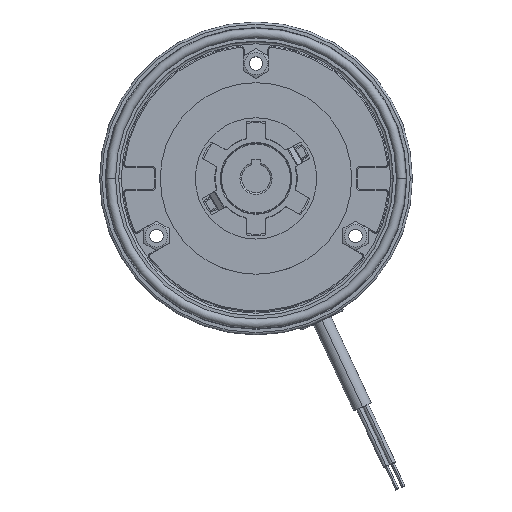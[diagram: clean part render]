
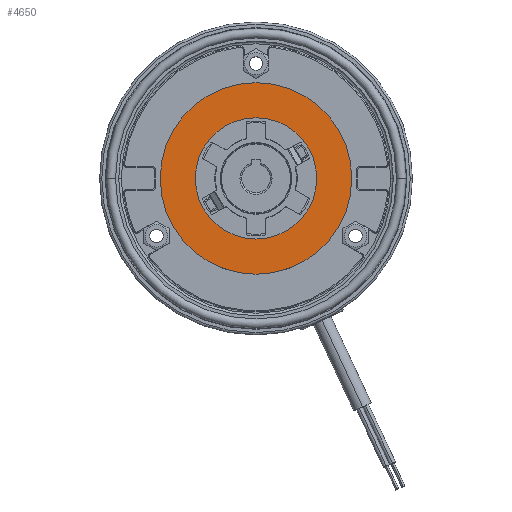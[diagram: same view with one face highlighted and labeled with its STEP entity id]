
A CAD part, top view. The second image highlights one B-rep face of the part: STEP entity #4650.
In plain terms, the highlighted planar face has unit normal (0, 0, 1).
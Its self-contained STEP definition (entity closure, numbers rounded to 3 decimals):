
#423 = CARTESIAN_POINT ( 'NONE',  ( 0., 30., 3.75 ) ) ;
#1033 = DIRECTION ( 'NONE',  ( 0., 0., 1. ) ) ;
#1764 = DIRECTION ( 'NONE',  ( -1., 0., 0. ) ) ;
#2003 = DIRECTION ( 'NONE',  ( 0., 0., -1. ) ) ;
#2680 = CIRCLE ( 'NONE', #14121, 19. ) ;
#3451 = CARTESIAN_POINT ( 'NONE',  ( -19., 0., 3.75 ) ) ;
#3581 = CARTESIAN_POINT ( 'NONE',  ( 0., 0., 3.75 ) ) ;
#4353 = AXIS2_PLACEMENT_3D ( 'NONE', #423, #12493, #17905 ) ;
#4650 = ADVANCED_FACE ( 'NONE', ( #21139, #21038 ), #14103, .T. ) ;
#5214 = ORIENTED_EDGE ( 'NONE', *, *, #8810, .F. ) ;
#5435 = ORIENTED_EDGE ( 'NONE', *, *, #16438, .F. ) ;
#5493 = CARTESIAN_POINT ( 'NONE',  ( 0., 0., 3.75 ) ) ;
#5686 = DIRECTION ( 'NONE',  ( 1., 0., 0. ) ) ;
#5792 = DIRECTION ( 'NONE',  ( 0., 0., -1. ) ) ;
#6016 = DIRECTION ( 'NONE',  ( -1., 0., 0. ) ) ;
#6190 = VERTEX_POINT ( 'NONE', #3451 ) ;
#6837 = AXIS2_PLACEMENT_3D ( 'NONE', #3581, #20254, #12162 ) ;
#6928 = VERTEX_POINT ( 'NONE', #17592 ) ;
#7708 = ORIENTED_EDGE ( 'NONE', *, *, #16720, .F. ) ;
#8810 = EDGE_CURVE ( 'NONE', #6928, #11390, #19625, .T. ) ;
#10071 = CARTESIAN_POINT ( 'NONE',  ( 0., 0., 3.75 ) ) ;
#10233 = VERTEX_POINT ( 'NONE', #10560 ) ;
#10560 = CARTESIAN_POINT ( 'NONE',  ( 19., 0., 3.75 ) ) ;
#11206 = CARTESIAN_POINT ( 'NONE',  ( 30., 0., 3.75 ) ) ;
#11390 = VERTEX_POINT ( 'NONE', #11206 ) ;
#11932 = CARTESIAN_POINT ( 'NONE',  ( 0., 0., 3.75 ) ) ;
#12162 = DIRECTION ( 'NONE',  ( 1., 0., 0. ) ) ;
#12493 = DIRECTION ( 'NONE',  ( 0., 0., 1. ) ) ;
#12497 = EDGE_LOOP ( 'NONE', ( #5214, #5435 ) ) ;
#14103 = PLANE ( 'NONE',  #4353 ) ;
#14121 = AXIS2_PLACEMENT_3D ( 'NONE', #10071, #1033, #5686 ) ;
#15083 = AXIS2_PLACEMENT_3D ( 'NONE', #5493, #5792, #6016 ) ;
#15809 = CIRCLE ( 'NONE', #6837, 19. ) ;
#16438 = EDGE_CURVE ( 'NONE', #11390, #6928, #19360, .T. ) ;
#16456 = ORIENTED_EDGE ( 'NONE', *, *, #21638, .F. ) ;
#16720 = EDGE_CURVE ( 'NONE', #10233, #6190, #15809, .T. ) ;
#17592 = CARTESIAN_POINT ( 'NONE',  ( -30., 0., 3.75 ) ) ;
#17711 = EDGE_LOOP ( 'NONE', ( #16456, #7708 ) ) ;
#17905 = DIRECTION ( 'NONE',  ( 1., 0., 0. ) ) ;
#19360 = CIRCLE ( 'NONE', #15083, 30. ) ;
#19625 = CIRCLE ( 'NONE', #21065, 30. ) ;
#20254 = DIRECTION ( 'NONE',  ( 0., 0., 1. ) ) ;
#21038 = FACE_BOUND ( 'NONE', #17711, .T. ) ;
#21065 = AXIS2_PLACEMENT_3D ( 'NONE', #11932, #2003, #1764 ) ;
#21139 = FACE_OUTER_BOUND ( 'NONE', #12497, .T. ) ;
#21638 = EDGE_CURVE ( 'NONE', #6190, #10233, #2680, .T. ) ;
